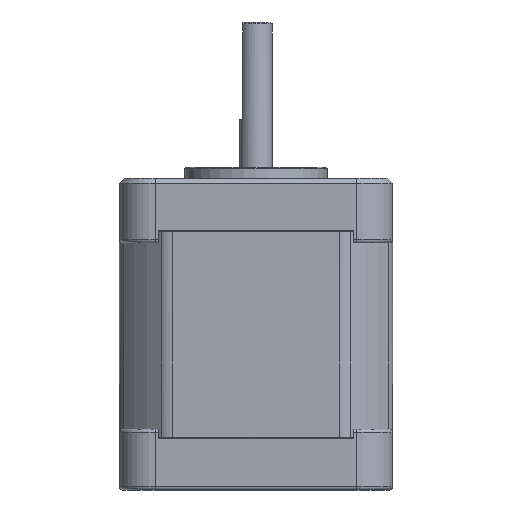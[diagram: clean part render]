
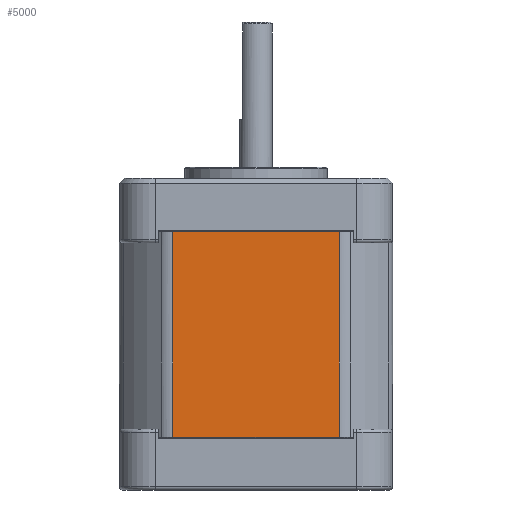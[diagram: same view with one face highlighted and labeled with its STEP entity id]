
A CAD part, front view. The second image highlights one B-rep face of the part: STEP entity #5000.
In plain terms, the highlighted planar face has unit normal (0, -1, 0).
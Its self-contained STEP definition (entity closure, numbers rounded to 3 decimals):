
#1968 = EDGE_CURVE ( 'NONE', #3607, #3596, #8292, .T. ) ;
#1969 = EDGE_CURVE ( 'NONE', #3595, #3607, #8291, .T. ) ;
#1970 = EDGE_CURVE ( 'NONE', #3558, #3595, #8290, .T. ) ;
#1972 = EDGE_CURVE ( 'NONE', #3558, #3596, #8289, .T. ) ;
#2656 = VECTOR ( 'NONE', #5234, 1000. ) ;
#2812 = VECTOR ( 'NONE', #5227, 1000. ) ;
#2830 = VECTOR ( 'NONE', #5232, 1000. ) ;
#2887 = VECTOR ( 'NONE', #5236, 1000. ) ;
#3176 = AXIS2_PLACEMENT_3D ( 'NONE', #6648, #6647, #6646 ) ;
#3558 = VERTEX_POINT ( 'NONE', #7186 ) ;
#3595 = VERTEX_POINT ( 'NONE', #7131 ) ;
#3596 = VERTEX_POINT ( 'NONE', #7130 ) ;
#3607 = VERTEX_POINT ( 'NONE', #7115 ) ;
#3982 = ORIENTED_EDGE ( 'NONE', *, *, #1968, .T. ) ;
#3983 = ORIENTED_EDGE ( 'NONE', *, *, #1970, .T. ) ;
#3984 = ORIENTED_EDGE ( 'NONE', *, *, #1972, .F. ) ;
#3985 = ORIENTED_EDGE ( 'NONE', *, *, #1969, .T. ) ;
#4283 = EDGE_LOOP ( 'NONE', ( #3984, #3983, #3985, #3982 ) ) ;
#5000 = ADVANCED_FACE ( 'NONE', ( #8009 ), #6651, .F. ) ;
#5227 = DIRECTION ( 'NONE',  ( 0., 0., 1. ) ) ;
#5228 = CARTESIAN_POINT ( 'NONE',  ( -12.831, -21., -40.05 ) ) ;
#5232 = DIRECTION ( 'NONE',  ( 1., 0., 0. ) ) ;
#5233 = CARTESIAN_POINT ( 'NONE',  ( 12.831, -21., -39.85 ) ) ;
#5234 = DIRECTION ( 'NONE',  ( 0., 0., 1. ) ) ;
#5235 = CARTESIAN_POINT ( 'NONE',  ( 12.831, -21., -40.05 ) ) ;
#5236 = DIRECTION ( 'NONE',  ( -1., 0., 0. ) ) ;
#5237 = CARTESIAN_POINT ( 'NONE',  ( 12.831, -21., -8.2 ) ) ;
#6646 = DIRECTION ( 'NONE',  ( -1., 0., 0. ) ) ;
#6647 = DIRECTION ( 'NONE',  ( 0., 1., 0. ) ) ;
#6648 = CARTESIAN_POINT ( 'NONE',  ( 12.831, -21., -40.05 ) ) ;
#6651 = PLANE ( 'NONE',  #3176 ) ;
#7115 = CARTESIAN_POINT ( 'NONE',  ( 12.831, -21., -8.2 ) ) ;
#7130 = CARTESIAN_POINT ( 'NONE',  ( -12.831, -21., -8.2 ) ) ;
#7131 = CARTESIAN_POINT ( 'NONE',  ( 12.831, -21., -39.85 ) ) ;
#7186 = CARTESIAN_POINT ( 'NONE',  ( -12.831, -21., -39.85 ) ) ;
#8009 = FACE_OUTER_BOUND ( 'NONE', #4283, .T. ) ;
#8289 = LINE ( 'NONE', #5228, #2812 ) ;
#8290 = LINE ( 'NONE', #5233, #2830 ) ;
#8291 = LINE ( 'NONE', #5235, #2656 ) ;
#8292 = LINE ( 'NONE', #5237, #2887 ) ;
